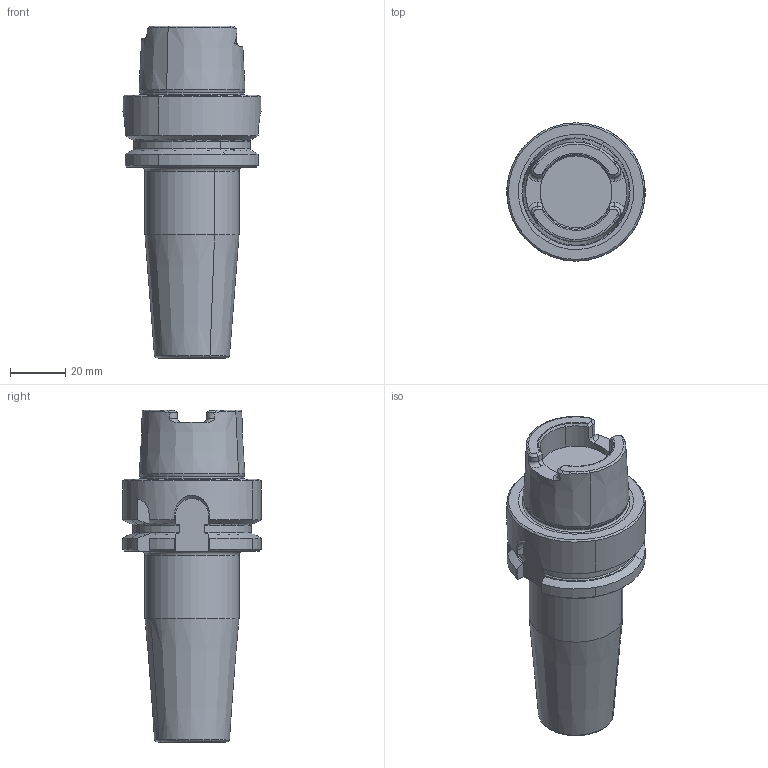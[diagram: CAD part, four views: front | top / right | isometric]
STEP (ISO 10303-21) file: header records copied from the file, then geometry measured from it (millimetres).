
FILE_DESCRIPTION(('CATIA V5 STEP'),'2;1');
FILE_NAME('I:\isr\design\admin8\users\edward_s\4590415_L.stp','2012-06-07T02:28:38+00:00',('none'),('none'),'CATIA Version 5 Release 21 SP 3 (IN-10)','CATIA V5 STEP AP214','none');
FILE_SCHEMA(('AUTOMOTIVE_DESIGN { 1 0 10303 214 1 1 1 1 }'));
Length unit declared in the file: millimetre
Products named in the file (1): 60974224_0 Holder-Tool HSK A 50 SRKIN 16X95
Bounding box: 50 x 50 x 120 mm (x, y, z)
Volume: 122544.9 mm3; surface area: 18448.1 mm2
Topology: 1 solids, 1 shells, 146 faces, 379 edges, 238 vertices
Faces by surface type: plane 51, cone 35, cylinder 32, torus 28
Entity records: 4565 total; most frequent: CARTESIAN_POINT 1411, ORIENTED_EDGE 758, DIRECTION 464, EDGE_CURVE 379, AXIS2_PLACEMENT_3D 241, VERTEX_POINT 238, CIRCLE 155, EDGE_LOOP 149
